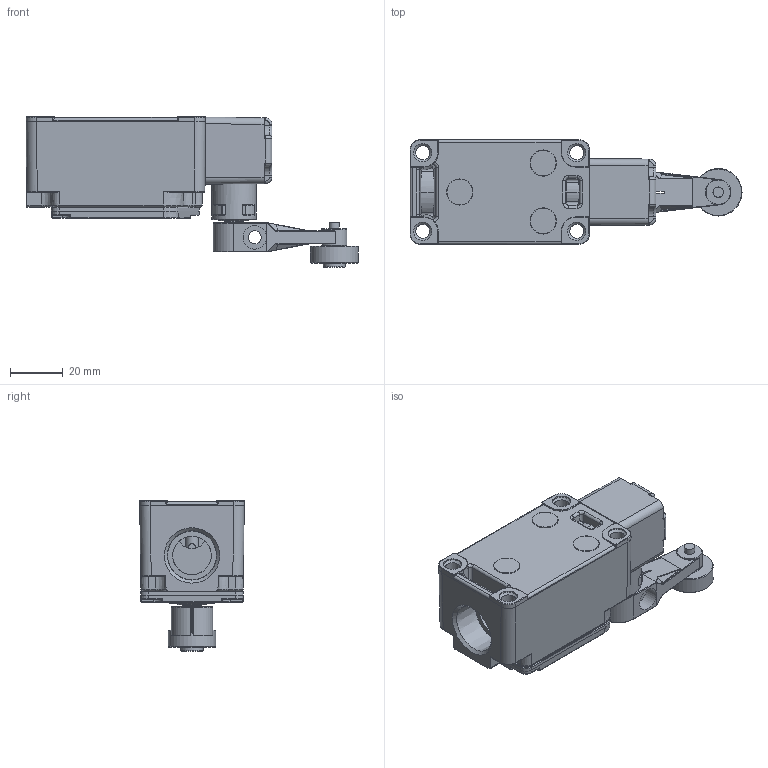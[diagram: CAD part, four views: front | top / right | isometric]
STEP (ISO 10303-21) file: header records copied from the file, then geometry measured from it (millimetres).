
FILE_DESCRIPTION(('FreeCAD Model'),'2;1');
FILE_NAME('Open CASCADE Shape Model','2026-09-09T09:09:46',(''),(''), 'Open CASCADE STEP processor 7.8','FreeCAD','Unknown');
FILE_SCHEMA(('AUTOMOTIVE_DESIGN { 1 0 10303 214 1 1 1 1 }'));
Length unit declared in the file: millimetre
Products named in the file (9): FM5104; 1; 2; 3; 4; 5; 6; 7; 8
Assembly tree (8 placements, depth 2):
  FM5104
    1
    2
    3
    4
    5
    6
    7
    8
Bounding box: 126.47 x 39.83 x 57.5 mm (x, y, z)
Volume: 64300.8 mm3; surface area: 40971.8 mm2
Topology: 8 solids, 8 shells, 986 faces, 2471 edges, 1523 vertices
Faces by surface type: cylinder 350, plane 344, cone 96, torus 87, bspline 83, sphere 26
Full cylindrical faces by diameter (mm): 2.5 x4, 2.6 x1, 2.687 x3, 3.394 x2, 3.402 x1, 3.8 x4, 3.9 x1, 4 x1, 4.221 x3, 4.379 x3, 5 x3, 5.4 x4, 6 x1, 6.1 x1, 6.6 x1, 6.966 x4, 8.5 x1, 9 x1, 9.7 x3, 9.95 x1, 9.952 x3, 10 x3, 12 x1, 13 x1, 14.689 x1, 17 x1, 18.1 x1
Entity records: 31961 total; most frequent: CARTESIAN_POINT 8458, ORIENTED_EDGE 4910, DIRECTION 4901, EDGE_CURVE 2455, AXIS2_PLACEMENT_3D 1883, VERTEX_POINT 1523, LINE 1135, VECTOR 1135
